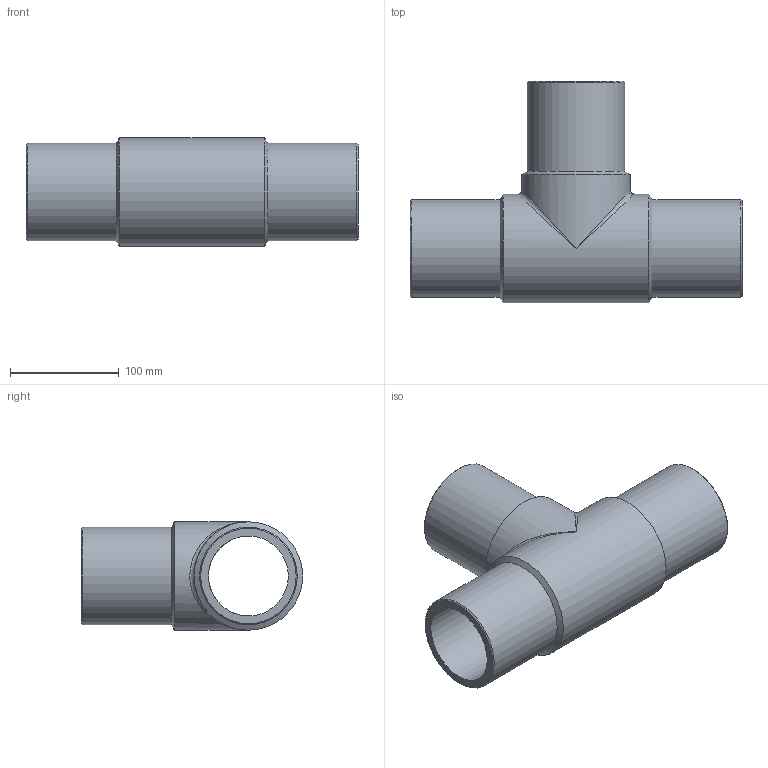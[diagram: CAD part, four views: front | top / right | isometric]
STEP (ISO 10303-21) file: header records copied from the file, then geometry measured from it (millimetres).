
FILE_DESCRIPTION(/* description */ ('Unknown'),/* implementation_level */ '2;1');
FILE_NAME(/* name */ 'TP090C',/* time_stamp */ '2021-08-12T16:02:41+02:00',/* author */ ('Unknown'),/* organization */ ('Unknown'),/* preprocessor_version */ 'ST-DEVELOPER v16.7',/* originating_system */ 'Solid Edge',/* authorisation */ 'Unknown');
FILE_SCHEMA (('AUTOMOTIVE_DESIGN {1 0 10303 214 3 1 1}'));
Length unit declared in the file: millimetre
Products named in the file (1): TP090C
Bounding box: 306 x 204 x 100 mm (x, y, z)
Volume: 1076953 mm3; surface area: 220226.8 mm2
Topology: 1 solids, 1 shells, 18 faces, 44 edges, 23 vertices
Faces by surface type: cylinder 7, cone 6, plane 3, bspline 2
Full cylindrical faces by diameter (mm): 73.6 x2, 90 x3, 100 x2
Entity records: 504 total; most frequent: CARTESIAN_POINT 147, DIRECTION 76, ORIENTED_EDGE 42, AXIS2_PLACEMENT_3D 38, EDGE_LOOP 36, FACE_BOUND 36, EDGE_CURVE 21, VERTEX_POINT 19
